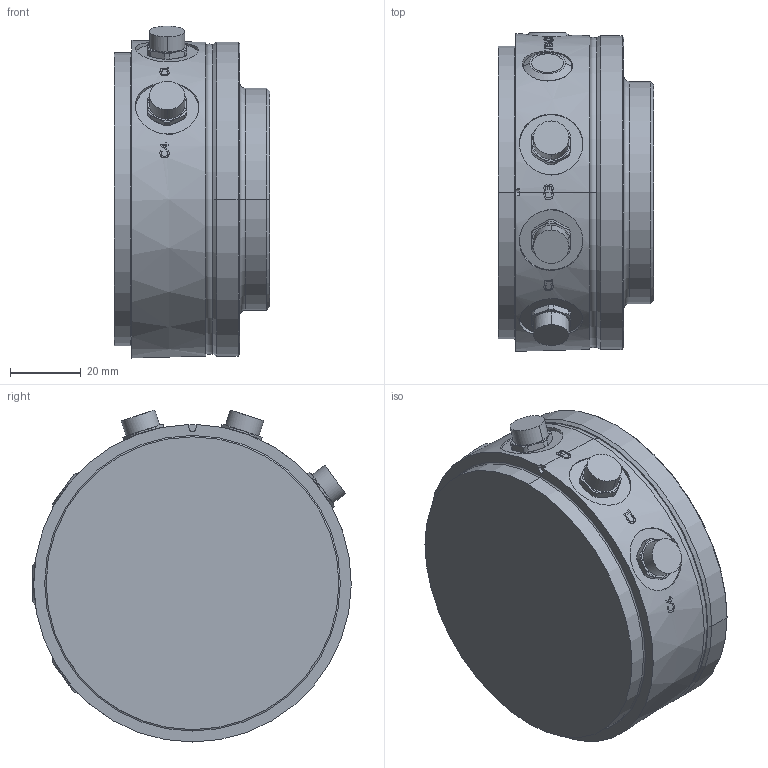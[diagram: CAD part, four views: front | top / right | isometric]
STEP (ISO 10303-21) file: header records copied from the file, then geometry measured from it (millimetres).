
FILE_DESCRIPTION (( 'STEP AP214' ), '1' );
FILE_NAME ('CRB1920_20kg-1670_OmniCore_rev00_Link6.step', '2026-03-06T03:42:52', ( '' ), ( '' ), 'SwSTEP 2.0', 'SolidWorks 2022', '' );
FILE_SCHEMA (( 'AUTOMOTIVE_DESIGN' ));
Length unit declared in the file: millimetre
Products named in the file (1): CRB1920_20kg-1670_OmniCore_rev00_Link6
Bounding box: 44.1 x 90.3 x 94.11 mm (x, y, z)
Volume: 235765.6 mm3; surface area: 29076.3 mm2
Topology: 1 solids, 1 shells, 631 faces, 1521 edges, 960 vertices
Faces by surface type: bspline 233, cylinder 150, cone 123, plane 87, torus 38
Entity records: 35862 total; most frequent: CARTESIAN_POINT 21749, ORIENTED_EDGE 3014, DIRECTION 1958, EDGE_CURVE 1507, VERTEX_POINT 960, AXIS2_PLACEMENT_3D 849, B_SPLINE_CURVE_WITH_KNOTS 797, EDGE_LOOP 719
